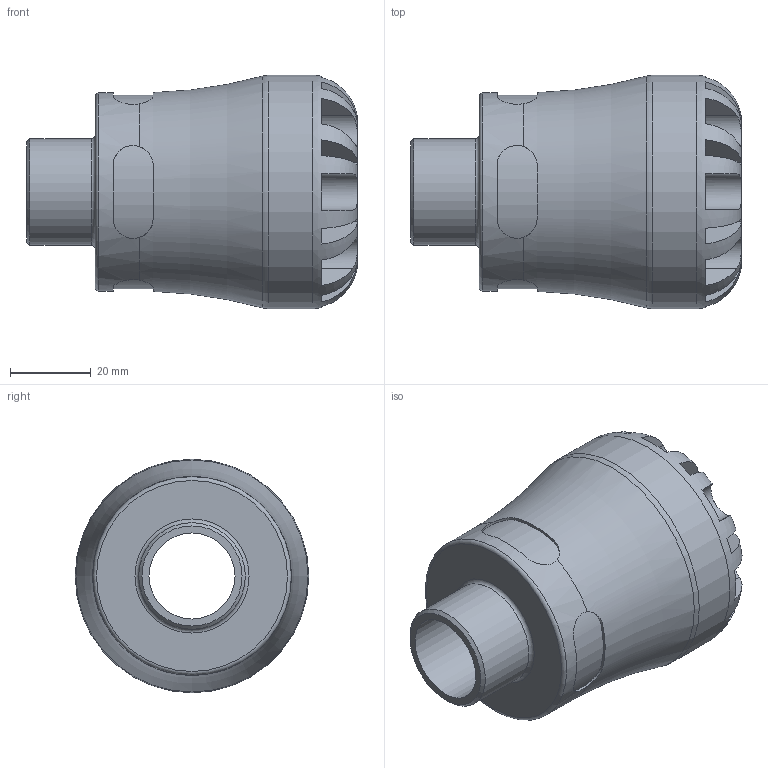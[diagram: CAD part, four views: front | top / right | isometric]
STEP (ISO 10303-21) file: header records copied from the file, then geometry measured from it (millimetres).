
FILE_DESCRIPTION(/* description */ ('PLASSON MALE ADAPTOR 1''''CTS x 3/4''''NPT SERIES 1'),/* implementation_level */ '2;1');
FILE_NAME(/* name */ 'C:\Dropbox\KIMPROJECTS-Inventor 2019\99-16-3568-Processing Inch\ASTM S1 2021\1002Z\1002Z0010007.stp',/* time_stamp */ '2021-09-02T14:36:56+03:00',/* author */ ('KIM'),/* organization */ (''),/* preprocessor_version */ 'ST-DEVELOPER v17.2',/* originating_system */ 'Autodesk Inventor 2019',/* authorisation */ '');
FILE_SCHEMA (('AUTOMOTIVE_DESIGN { 1 0 10303 214 3 1 1 }'));
Length unit declared in the file: inch
Products named in the file (1): 1002Z0010007
Bounding box: 82.04 x 57.91 x 57.91 mm (x, y, z)
Volume: 101697.3 mm3; surface area: 24319.2 mm2
Topology: 1 solids, 1 shells, 100 faces, 273 edges, 177 vertices
Faces by surface type: plane 60, cylinder 33, torus 5, cone 2
Full cylindrical faces by diameter (mm): 21.337 x1, 26.441 x1, 28.45 x1, 49.225 x1, 57.912 x1
Entity records: 4125 total; most frequent: CARTESIAN_POINT 1507, ORIENTED_EDGE 546, DIRECTION 517, EDGE_CURVE 273, AXIS2_PLACEMENT_3D 215, VERTEX_POINT 177, CIRCLE 114, EDGE_LOOP 104
